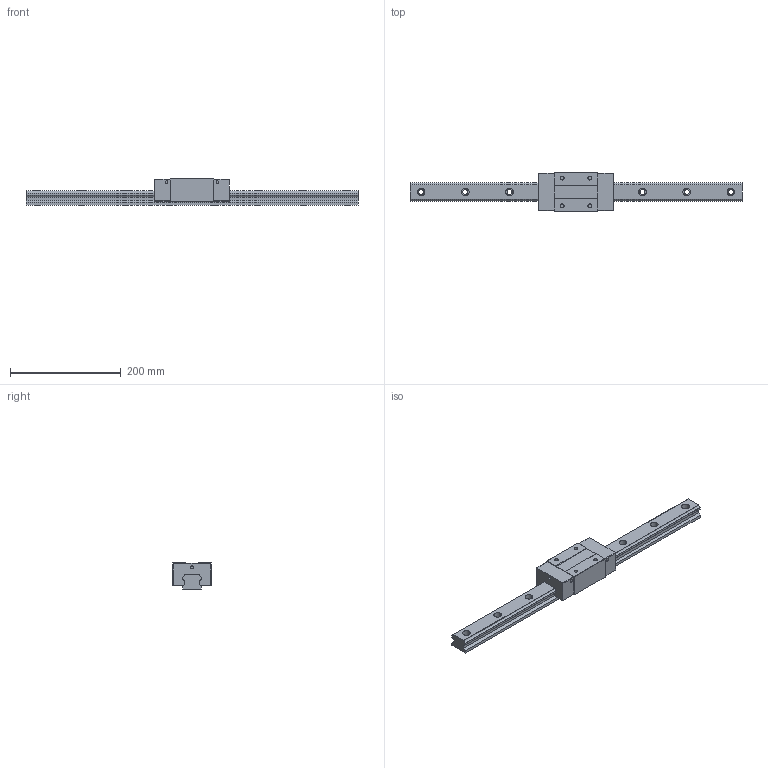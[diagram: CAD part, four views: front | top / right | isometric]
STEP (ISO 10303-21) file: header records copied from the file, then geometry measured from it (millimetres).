
FILE_DESCRIPTION (( 'STEP AP203' ), '1' );
FILE_NAME ('TRS35VN-DZ.STEP', '2024-06-28T07:32:17', ( '' ), ( '' ), 'SwSTEP 2.0', 'SolidWorks 2022', '' );
FILE_SCHEMA (( 'CONFIG_CONTROL_DESIGN' ));
Length unit declared in the file: millimetre
Products named in the file (1): TRS35VN-DZ
Bounding box: 600 x 70 x 48 mm (x, y, z)
Volume: 744268.1 mm3; surface area: 123639.2 mm2
Topology: 2 solids, 2 shells, 178 faces, 464 edges, 308 vertices
Faces by surface type: plane 90, cylinder 88
Entity records: 5619 total; most frequent: DIRECTION 998, CARTESIAN_POINT 951, ORIENTED_EDGE 928, EDGE_CURVE 464, AXIS2_PLACEMENT_3D 355, VERTEX_POINT 308, VECTOR 288, LINE 288
